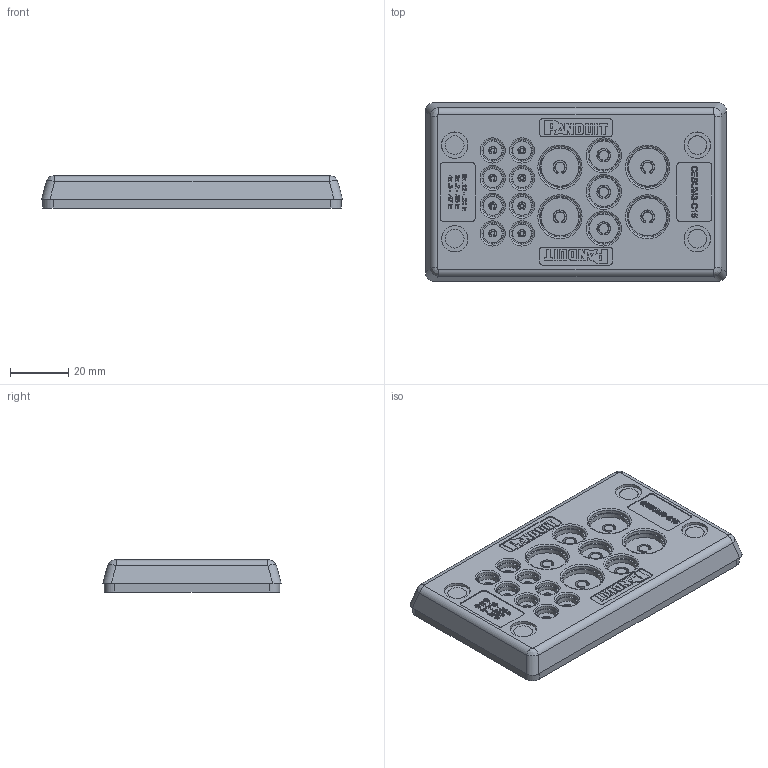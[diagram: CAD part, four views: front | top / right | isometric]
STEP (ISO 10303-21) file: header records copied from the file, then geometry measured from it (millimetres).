
FILE_DESCRIPTION(/* description */ (''),/* implementation_level */ '2;1');
FILE_NAME(/* name */ 'C:\SapWorkDir\Inventor\MP1\ConvertTempPath\87_16_121328_00_A_220602_KDP-Z 10-15.stp',/* time_stamp */ '2022-06-02T09:50:48+02:00',/* author */ ('BAUER'),/* organization */ (''),/* preprocessor_version */ 'ST-DEVELOPER v16.13',/* originating_system */ 'Autodesk Inventor 2018',/* authorisation */ '');
FILE_SCHEMA (('AUTOMOTIVE_DESIGN { 1 0 10303 214 3 1 1 }'));
Products named in the file (1): 121328
Bounding box: 103 x 61 x 11 mm (x, y, z)
Volume: 31205.2 mm3; surface area: 32929.4 mm2
Topology: 2 solids, 2 shells, 2101 faces, 5290 edges, 3185 vertices
Faces by surface type: plane 974, cylinder 547, bspline 215, sphere 196, cone 118, torus 51
Full cylindrical faces by diameter (mm): 6 x3, 6.4 x8
Entity records: 62538 total; most frequent: CARTESIAN_POINT 13429, ORIENTED_EDGE 10094, DIRECTION 9892, EDGE_CURVE 5047, AXIS2_PLACEMENT_3D 3396, VERTEX_POINT 3173, LINE 3100, VECTOR 3100
